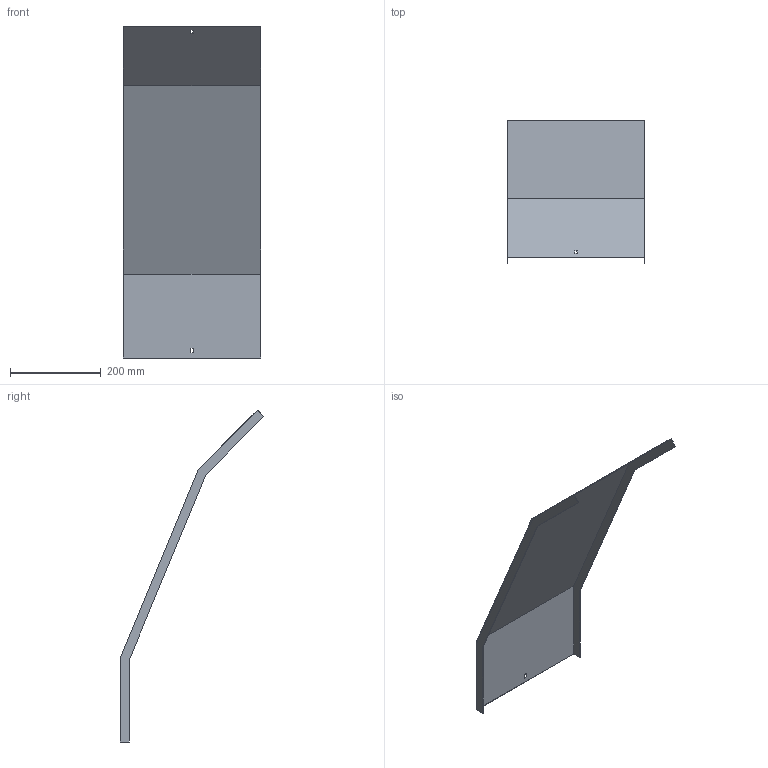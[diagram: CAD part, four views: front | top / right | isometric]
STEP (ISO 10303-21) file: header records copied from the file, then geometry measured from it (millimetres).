
FILE_DESCRIPTION (( 'STEP AP214' ), '1' );
FILE_NAME ('34N5F300.step', '2025-02-21T14:24:41', ( '' ), ( '' ), 'SwSTEP 2.0', 'SolidWorks 2023', '' );
FILE_SCHEMA (( 'AUTOMOTIVE_DESIGN' ));
Length unit declared in the file: millimetre
Products named in the file (1): 34N5F300
Bounding box: 303 x 316.43 x 729.78 mm (x, y, z)
Volume: 416214.2 mm3; surface area: 558473.1 mm2
Topology: 1 solids, 1 shells, 26 faces, 72 edges, 48 vertices
Faces by surface type: plane 26
Entity records: 847 total; most frequent: CARTESIAN_POINT 147, ORIENTED_EDGE 144, DIRECTION 126, EDGE_CURVE 72, VECTOR 72, LINE 72, VERTEX_POINT 48, EDGE_LOOP 30
